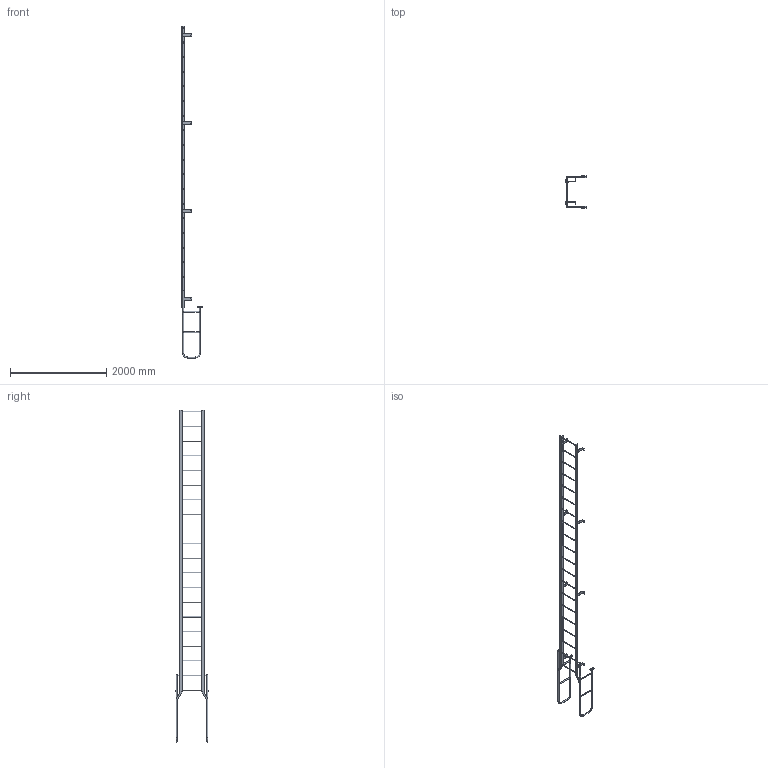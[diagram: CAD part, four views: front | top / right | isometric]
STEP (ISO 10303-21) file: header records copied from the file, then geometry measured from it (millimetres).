
FILE_DESCRIPTION(/* description */ (''),/* implementation_level */ '2;1');
FILE_NAME(/* name */ 'P:\MIKEL & KAREN\3570238 F20W SIMPLIFIED PART .stp',/* time_stamp */ '2018-07-02T15:51:59-04:00',/* author */ ('stephanie'),/* organization */ (''),/* preprocessor_version */ 'ST-DEVELOPER v16.1',/* originating_system */ 'Autodesk Inventor 2016',/* authorisation */ '');
FILE_SCHEMA (('AUTOMOTIVE_DESIGN { 1 0 10303 214 3 1 1 }'));
Length unit declared in the file: centimetre
Products named in the file (1): 3570238 F20W SIMPLIFIED PART 
Bounding box: 425.58 x 685.77 x 6908.8 mm (x, y, z)
Volume: 11099435.6 mm3; surface area: 4101085.6 mm2
Topology: 26 solids, 26 shells, 350 faces, 902 edges, 600 vertices
Faces by surface type: plane 181, cylinder 161, torus 8
Full cylindrical faces by diameter (mm): 10.319 x4, 14.287 x8, 19.05 x20, 22.098 x10, 22.225 x40, 25.4 x10
Entity records: 10758 total; most frequent: CARTESIAN_POINT 2067, DIRECTION 1772, ORIENTED_EDGE 1504, EDGE_CURVE 748, AXIS2_PLACEMENT_3D 693, EDGE_LOOP 562, VERTEX_POINT 548, LINE 386
